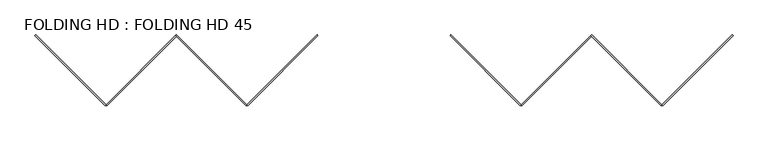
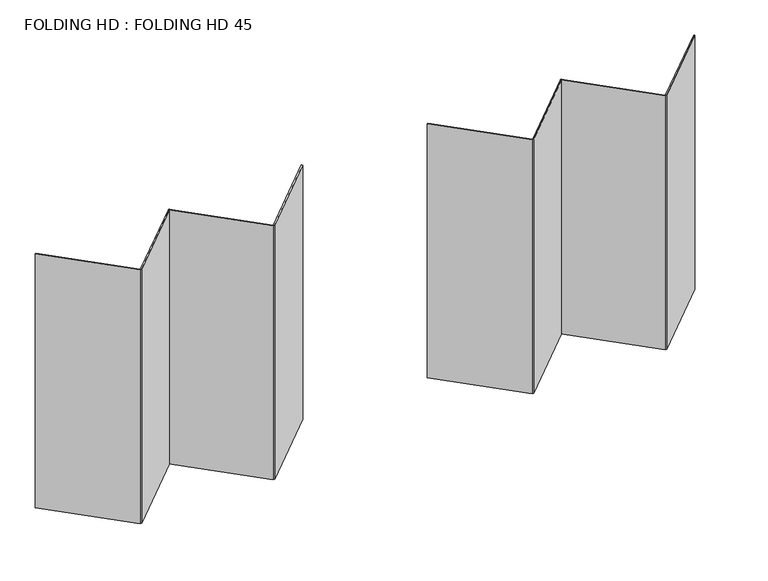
"""IFC4 building model written with IfcOpenShell, lengths in millimetres: plate geometry, FOLDING HD : FOLDING HD 45."""

from ifc_helpers import new_model, si_unit, origin, origin_with_axes, place, context, project, spatial, polyline, outline, extrude, source, transform, mapped, element, save


def folding_hd_folding_hd_45_306ecaba(model_context):
    return source(origin(), model_context, "Body", "SweptSolid", [
        extrude(outline(polyline([(2513.6038969, -636.3961031), (2506.5328291, -643.4671709), (1870.1367261, -7.0710678), (1877.2077939, 0.0), (2513.6038969, -636.3961031)])), origin_with_axes(), (0.0, 0.0, 1.0), 2570.0),
        extrude(outline(polyline([(2513.6038969, -636.3961031), (3150.0, 0.0), (3157.0710678, -7.0710678), (2520.6749647, -643.4671709), (2513.6038969, -636.3961031)])), origin_with_axes(), (0.0, 0.0, 1.0), 2570.0),
        extrude(outline(polyline([(1240.8116908, -636.3961031), (1877.2077939, 0.0), (1884.2788617, -7.0710678), (1247.8827586, -643.4671709), (1240.8116908, -636.3961031)])), origin_with_axes(), (0.0, 0.0, 1.0), 2570.0),
        extrude(outline(polyline([(1240.8116908, -636.3961031), (1233.740623, -643.4671709), (597.3445199, -7.0710678), (604.4155877, 0.0), (1240.8116908, -636.3961031)])), origin_with_axes(), (0.0, 0.0, 1.0), 2570.0),
        extrude(outline(polyline([(-1240.8116908, -636.3961031), (-1247.8827586, -643.4671709), (-1884.2788617, -7.0710678), (-1877.2077939, 0.0), (-1240.8116908, -636.3961031)])), origin_with_axes(), (0.0, 0.0, 1.0), 2570.0),
        extrude(outline(polyline([(-1240.8116908, -636.3961031), (-604.4155877, 0.0), (-597.3445199, -7.0710678), (-1233.740623, -643.4671709), (-1240.8116908, -636.3961031)])), origin_with_axes(), (0.0, 0.0, 1.0), 2570.0),
        extrude(outline(polyline([(-2513.6038969, -636.3961031), (-1877.2077939, 0.0), (-1870.1367261, -7.0710678), (-2506.5328291, -643.4671709), (-2513.6038969, -636.3961031)])), origin_with_axes(), (0.0, 0.0, 1.0), 2570.0),
        extrude(outline(polyline([(-2513.6038969, -636.3961031), (-2520.6749647, -643.4671709), (-3157.0710678, -7.0710678), (-3150.0, 0.0), (-2513.6038969, -636.3961031)])), origin_with_axes(), (0.0, 0.0, 1.0), 2570.0),
    ])


if __name__ == "__main__":
    model = new_model("IFC4")
    model_context = context("Model", 3, world=origin())
    ifc_project = project(units=[si_unit("LENGTHUNIT", "METRE", prefix="MILLI")], contexts=[model_context])
    site = spatial("IfcSite", under=ifc_project)
    building = spatial("IfcBuilding", under=site)
    placement = place(None, origin())
    folding_hd_folding_hd_45_shape = folding_hd_folding_hd_45_306ecaba(model_context)
    element("IfcPlate", 1, ObjectType="FOLDING HD : FOLDING HD 45", at=placement, inside=building, context=model_context, shape_type="MappedRepresentation", body=[
        mapped(folding_hd_folding_hd_45_shape, transform((0.0, 0.0, 0.0), x_axis=(1.0, 0.0, 0.0), y_axis=(0.0, 1.0, 0.0), z_axis=(0.0, 0.0, 1.0))),
    ])
    save(model, "model.ifc")
